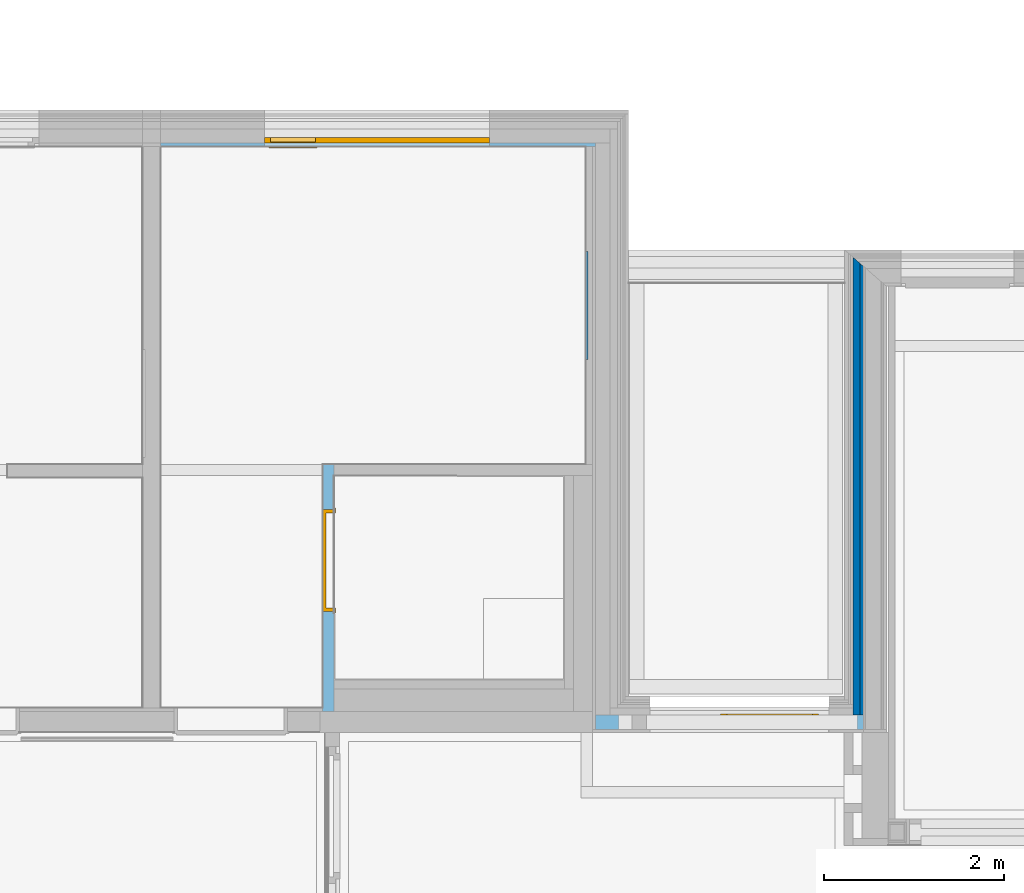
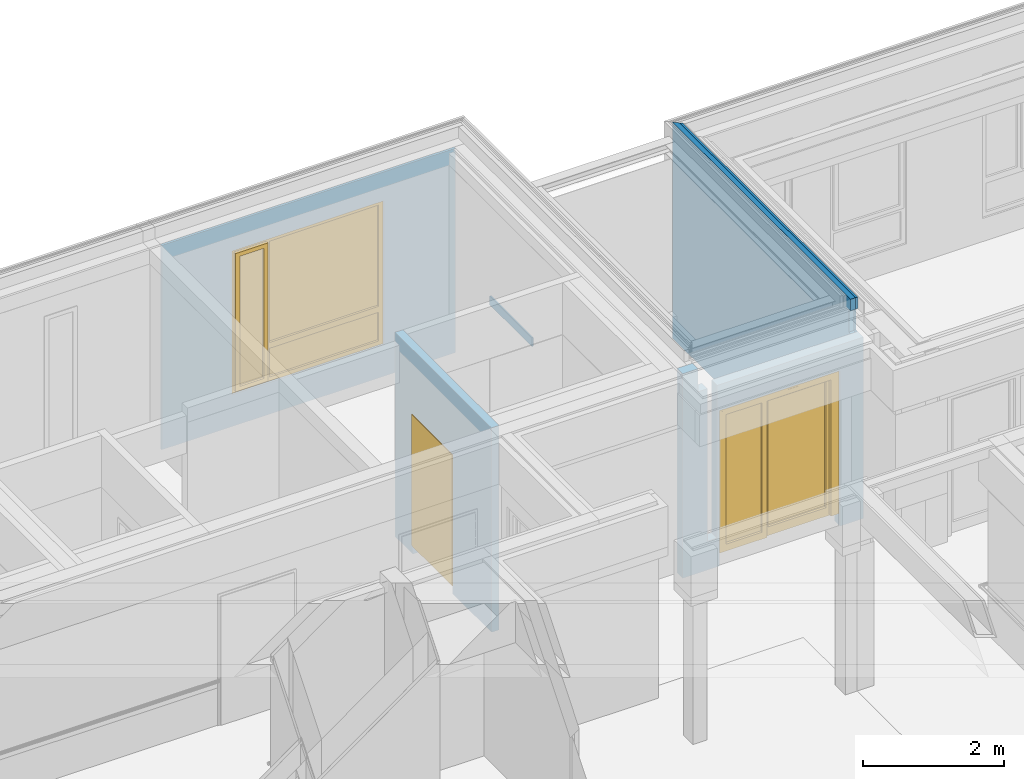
# One storey, part 105 of 222: 3 walls, 2 doors, 1 window, 3 openings, plus 3 elements that do not belong to this part.
"""IFC4 building model written with IfcOpenShell, lengths in metres."""

import ifcopenshell
import ifcopenshell.guid

model = None  # the IFC model being written
_history = None  # IfcOwnerHistory: only IFC2X3 demands one
_inside = {}  # id of a spatial element -> (the spatial element, [elements in it])
_under = {}  # id of a project, library or spatial element -> (it, [spatial elements below it])
_declared = {}  # id of a project -> (the project, [libraries it declares])
_typed = {}  # id of a type object -> (the type object, [elements of that type])
_made_of = {}  # id of a material, layer set ... -> (it, [elements and type objects made of it])


def new_model(schema):
    """Start an empty IFC model of exactly this schema.

    Asked for "IFC4X3", IfcOpenShell would pick the latest addendum, in which some entities
    have other attributes; the version numbers below select the first issue.
    IFC2X3 requires an IfcOwnerHistory on every rooted entity: one is made here for all.
    """
    global model, _history
    if schema == "IFC4X3":
        model = ifcopenshell.file(schema_version=(4, 3, 0, 0))
    else:
        model = ifcopenshell.file(schema=schema)
    _inside.clear()
    _under.clear()
    _declared.clear()
    _typed.clear()
    _made_of.clear()
    _history = None
    if model.schema == "IFC2X3":
        org = make("IfcOrganization", Name="unknown")
        user = make(
            "IfcPersonAndOrganization",
            ThePerson=make("IfcPerson", FamilyName="unknown"),
            TheOrganization=org,
        )
        app = make(
            "IfcApplication",
            ApplicationDeveloper=org,
            Version="unknown",
            ApplicationFullName="unknown",
            ApplicationIdentifier="unknown",
        )
        _history = make(
            "IfcOwnerHistory",
            OwningUser=user,
            OwningApplication=app,
            ChangeAction="ADDED",
            CreationDate=0,
        )
    return model


def make(cls, **values):
    """One entity of the class cls with the attributes given. An attribute that is None is left unset."""
    return model.create_entity(
        cls, **{name: value for name, value in values.items() if value is not None}
    )


def entity(cls, *values):
    """Any entity or typed value of the class cls, its attributes in the order of the schema. None: left unset."""
    e = model.create_entity(cls)
    for i, value in enumerate(values):
        if value is not None:
            e[i] = value
    return e


def rooted(cls, **values):
    """An entity with a GlobalId (a new one), such as an element, a storey or a relation."""
    return make(cls, GlobalId=ifcopenshell.guid.new(), OwnerHistory=_history, **values)


def si_unit(unit_type, name, prefix=None):
    """IfcSIUnit, for example si_unit("LENGTHUNIT", "METRE", prefix="MILLI")."""
    return make("IfcSIUnit", UnitType=unit_type, Prefix=prefix, Name=name)


def converted_unit(unit_type, name, factor, base, dimensions=None, offset=None):
    """IfcConversionBasedUnit, such as the inch: factor (a typed value) times the base unit."""
    return make(
        "IfcConversionBasedUnit"
        if offset is None
        else "IfcConversionBasedUnitWithOffset",
        ConversionOffset=offset,
        Dimensions=None
        if dimensions is None
        else entity("IfcDimensionalExponents", *dimensions),
        UnitType=unit_type,
        Name=name,
        ConversionFactor=make(
            "IfcMeasureWithUnit", ValueComponent=factor, UnitComponent=base
        ),
    )


def derived_unit(unit_type, elements):
    """IfcDerivedUnit: a product of units, each with its exponent."""
    return make(
        "IfcDerivedUnit",
        Elements=[
            make("IfcDerivedUnitElement", Unit=unit, Exponent=power)
            for unit, power in elements
        ],
        UnitType=unit_type,
    )


def assignment(units):
    """IfcUnitAssignment: the units of a project."""
    return None if units is None else make("IfcUnitAssignment", Units=units)


def point(xyz):
    """IfcCartesianPoint."""
    return None if xyz is None else make("IfcCartesianPoint", Coordinates=xyz)


def direction(xyz):
    """IfcDirection."""
    return None if xyz is None else make("IfcDirection", DirectionRatios=xyz)


def frame(location, z_axis=None, x_axis=None):
    """IfcAxis2Placement3D, a coordinate frame: its origin and axes. An axis left out is left unset."""
    return make(
        "IfcAxis2Placement3D",
        Location=point(location),
        Axis=direction(z_axis),
        RefDirection=direction(x_axis),
    )


def frame_2d(location, x_axis=None):
    """IfcAxis2Placement2D, a coordinate frame in the plane: its origin and x axis."""
    return make(
        "IfcAxis2Placement2D", Location=point(location), RefDirection=direction(x_axis)
    )


def origin():
    """The frame at (0, 0, 0) with its axes left unset."""
    return frame((0.0, 0.0, 0.0))


def origin_with_axes():
    """The frame at (0, 0, 0) with the z axis (0, 0, 1) and the x axis (1, 0, 0) written out."""
    return frame((0.0, 0.0, 0.0), z_axis=(0.0, 0.0, 1.0), x_axis=(1.0, 0.0, 0.0))


def place(relative_to, where):
    """IfcLocalPlacement: puts the frame where relative to a parent placement (None: the world)."""
    return make(
        "IfcLocalPlacement", PlacementRelTo=relative_to, RelativePlacement=where
    )


def context(
    kind, dimensions, precision=None, world=None, true_north=None, identifier=None
):
    """IfcGeometricRepresentationContext, for example the 3D "Model" context."""
    return make(
        "IfcGeometricRepresentationContext",
        ContextIdentifier=identifier,
        ContextType=kind,
        CoordinateSpaceDimension=dimensions,
        Precision=precision,
        WorldCoordinateSystem=world,
        TrueNorth=true_north,
    )


def subcontext(parent, identifier, kind, view, scale=None):
    """IfcGeometricRepresentationSubContext, for example "Body" below "Model"."""
    return make(
        "IfcGeometricRepresentationSubContext",
        ContextIdentifier=identifier,
        ContextType=kind,
        ParentContext=parent,
        TargetScale=scale,
        TargetView=view,
    )


def project(units=None, contexts=None):
    """IfcProject with its units and contexts."""
    return rooted(
        "IfcProject",
        Name="project",
        RepresentationContexts=contexts,
        UnitsInContext=assignment(units),
    )


def spatial(cls, under=None, at=None, **own):
    """A site, building, storey or space (cls), placed at a placement, below another one or the project."""
    s = rooted(cls, ObjectPlacement=at, **own)
    if under is not None:
        _under.setdefault(under.id(), (under, []))[1].append(s)
    return s


def polyline(points):
    """IfcPolyline through the points."""
    return make("IfcPolyline", Points=[point(p) for p in points])


def profile(cls, at=None, kind="AREA", **sizes):
    """A parametric profile (cls). Its sizes go by their IFC names, for example OverallWidth=200.0."""
    return make(cls, ProfileType=kind, Position=at, **sizes)


def rectangle(**sizes):
    """IfcRectangleProfileDef."""
    return profile("IfcRectangleProfileDef", **sizes)


def outline(outer, holes=None, kind="AREA"):
    """IfcArbitraryClosedProfileDef: a profile drawn as a closed curve; with holes, ...WithVoids."""
    if holes is None:
        return make("IfcArbitraryClosedProfileDef", ProfileType=kind, OuterCurve=outer)
    return make(
        "IfcArbitraryProfileDefWithVoids",
        ProfileType=kind,
        OuterCurve=outer,
        InnerCurves=holes,
    )


def extrude(swept, where, along, depth):
    """IfcExtrudedAreaSolid: the profile swept, set in the frame where, extruded along a direction by depth."""
    return make(
        "IfcExtrudedAreaSolid",
        SweptArea=swept,
        Position=where,
        ExtrudedDirection=direction(along),
        Depth=depth,
    )


def clip(a, b, op="DIFFERENCE"):
    """IfcBooleanClippingResult: the solid a cut by the half space b."""
    return make(
        "IfcBooleanClippingResult", Operator=op, FirstOperand=a, SecondOperand=b
    )


def bounded_halfspace(plane, agree, where, boundary):
    """IfcPolygonalBoundedHalfSpace: a half space limited to a polygon's prism."""
    return make(
        "IfcPolygonalBoundedHalfSpace",
        BaseSurface=make("IfcPlane", Position=plane),
        AgreementFlag=agree,
        Position=where,
        PolygonalBoundary=boundary,
    )


def faces_of(points, faces, orient=None, outer=None):
    """IfcFace entities. A face is a list of loops; a loop is a list of indices into points, from 0.

    orient and outer hold one flag for each loop. By default every Orientation is true, the
    first loop of a face is its IfcFaceOuterBound and the others are IfcFaceBound.
    """
    made = []
    for i, loops in enumerate(faces):
        bounds = []
        for j, loop in enumerate(loops):
            is_outer = j == 0 if outer is None else outer[i][j]
            bounds.append(
                make(
                    "IfcFaceOuterBound" if is_outer else "IfcFaceBound",
                    Bound=make("IfcPolyLoop", Polygon=[points[k] for k in loop]),
                    Orientation=True if orient is None else orient[i][j],
                )
            )
        made.append(make("IfcFace", Bounds=bounds))
    return made


def closed_shell(faces, orient=None, outer=None):
    """The faces of one IfcClosedShell. faceted_brep and surface_model build it on their shared points."""
    return ("IfcClosedShell", faces, orient, outer)


def open_shell(faces, orient=None, outer=None):
    """The faces of one IfcOpenShell. surface_model builds it on its shared points."""
    return ("IfcOpenShell", faces, orient, outer)


def faceted_brep(points, faces, orient=None, outer=None, voids=None):
    """IfcFacetedBrep: a solid bounded by flat faces; with voids (closed shells), ...WithVoids."""
    shared = [point(p) for p in points]
    hull = make("IfcClosedShell", CfsFaces=faces_of(shared, faces, orient, outer))
    if voids is None:
        return make("IfcFacetedBrep", Outer=hull)
    return make(
        "IfcFacetedBrepWithVoids",
        Outer=hull,
        Voids=[
            make(cls, CfsFaces=faces_of(shared, fs, o, b)) for cls, fs, o, b in voids
        ],
    )


def surface_model(cls, points, shells):
    """IfcFaceBasedSurfaceModel or IfcShellBasedSurfaceModel (cls): surfaces that need not close."""
    shared = [point(p) for p in points]
    made = [make(c, CfsFaces=faces_of(shared, fs, o, b)) for c, fs, o, b in shells]
    if cls == "IfcFaceBasedSurfaceModel":
        return make(cls, FbsmFaces=made)
    return make(cls, SbsmBoundary=made)


def shape(context_of_items, identifier, shape_type, items):
    """IfcShapeRepresentation: the items that make up one representation, for example the "Body"."""
    return make(
        "IfcShapeRepresentation",
        ContextOfItems=context_of_items,
        RepresentationIdentifier=identifier,
        RepresentationType=shape_type,
        Items=items,
    )


def source(mapping_origin, context_of_items, identifier, shape_type, items):
    """IfcRepresentationMap: a shape defined once, which mapped items show again and again."""
    return make(
        "IfcRepresentationMap",
        MappingOrigin=mapping_origin,
        MappedRepresentation=shape(context_of_items, identifier, shape_type, items),
    )


def transform(
    local_origin,
    x_axis=None,
    y_axis=None,
    z_axis=None,
    scale=None,
    scale2=None,
    scale3=None,
    uniform=True,
):
    """IfcCartesianTransformationOperator3D, or its non-uniform kind. x_axis, y_axis, z_axis: its Axis1, 2, 3."""
    if uniform:
        return make(
            "IfcCartesianTransformationOperator3D",
            Axis1=direction(x_axis),
            Axis2=direction(y_axis),
            LocalOrigin=point(local_origin),
            Scale=scale,
            Axis3=direction(z_axis),
        )
    return make(
        "IfcCartesianTransformationOperator3DnonUniform",
        Axis1=direction(x_axis),
        Axis2=direction(y_axis),
        LocalOrigin=point(local_origin),
        Scale=scale,
        Axis3=direction(z_axis),
        Scale2=scale2,
        Scale3=scale3,
    )


def mapped(mapping_source, mapping_target):
    """IfcMappedItem: shows the shape of a source again, moved by a transform."""
    return make(
        "IfcMappedItem", MappingSource=mapping_source, MappingTarget=mapping_target
    )


def material(Name=None, Category=None):
    """IfcMaterial."""
    return make("IfcMaterial", Name=Name, Category=Category)


def made_of(thing, what):
    """Note that an element or type object is made of a material, layer set ...; save() writes the relation."""
    if what is not None:
        _made_of.setdefault(what.id(), (what, []))[1].append(thing)
    return thing


def type_object(cls, material=None, **own):
    """A type object (cls), such as IfcWallType, which elements share."""
    return made_of(rooted(cls, **own), material)


def element(
    cls,
    number,
    at=None,
    inside=None,
    cuts=None,
    type_object=None,
    material=None,
    context=None,
    identifier="Body",
    shape_type=None,
    held_by="IfcProductDefinitionShape",
    body=None,
    shapes=None,
    **own,
):
    """One element of the class cls, such as IfcWall. Its Tag is "e" and its number.

    at: its placement. inside: the storey or other place that contains it. cuts: it is an
    opening in that element (IfcRelVoidsElement). A single representation is given by context,
    identifier, shape_type and body (its items); several are given by shapes. held_by: the class
    of the entity that holds the representations. save() writes the other relations.
    """
    e = rooted(cls, Tag="e%d" % number, ObjectPlacement=at, **own)
    if body is not None:
        shapes = [shape(context, identifier, shape_type, body)]
    if shapes is not None:
        e.Representation = make(held_by, Representations=shapes)
    if inside is not None:
        _inside.setdefault(inside.id(), (inside, []))[1].append(e)
    if cuts is not None:
        rooted(
            "IfcRelVoidsElement", RelatingBuildingElement=cuts, RelatedOpeningElement=e
        )
    if type_object is not None:
        _typed.setdefault(type_object.id(), (type_object, []))[1].append(e)
    return made_of(e, material)


def fill(opening, filler):
    """IfcRelFillsElement: the door or window that sits in an opening."""
    return rooted(
        "IfcRelFillsElement",
        RelatingOpeningElement=opening,
        RelatedBuildingElement=filler,
    )


def aggregate(whole, parts):
    """IfcRelAggregates: a whole, such as a stair, and the parts it consists of."""
    return rooted("IfcRelAggregates", RelatingObject=whole, RelatedObjects=parts)


def save(model, path):
    """Write the relations noted so far, then the file.

    IfcRelAggregates (storeys below a building ...), IfcRelContainedInSpatialStructure (elements
    in a storey), IfcRelDefinesByType, IfcRelAssociatesMaterial and IfcRelDeclares: one each for
    every whole, place, type object, material and project.
    """
    for whole, parts in _under.values():
        aggregate(whole, parts)
    for where, things in _inside.values():
        rooted(
            "IfcRelContainedInSpatialStructure",
            RelatedElements=things,
            RelatingStructure=where,
        )
    for kind, things in _typed.values():
        rooted("IfcRelDefinesByType", RelatedObjects=things, RelatingType=kind)
    for what, things in _made_of.values():
        rooted("IfcRelAssociatesMaterial", RelatedObjects=things, RelatingMaterial=what)
    for by, libraries in _declared.values():
        rooted("IfcRelDeclares", RelatingContext=by, RelatedDefinitions=libraries)
    model.write(path)


model = new_model("IFC4")

# Units and contexts
model_context = context("Model", 3, precision=1e-05, world=origin())
body_context = subcontext(model_context, "Body", "Model", "MODEL_VIEW")
ifc_project = project(units=[si_unit("LENGTHUNIT", "METRE"), si_unit("AREAUNIT", "SQUARE_METRE"), si_unit("VOLUMEUNIT", "CUBIC_METRE"), si_unit("MASSUNIT", "GRAM", prefix="KILO"), converted_unit("PLANEANGLEUNIT", "DEGREE", entity("IfcPlaneAngleMeasure", 0.0174532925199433), si_unit("PLANEANGLEUNIT", "RADIAN"), dimensions=[0, 0, 0, 0, 0, 0, 0]), derived_unit("THERMALTRANSMITTANCEUNIT", [(si_unit("POWERUNIT", "WATT"), 1), (si_unit("THERMODYNAMICTEMPERATUREUNIT", "KELVIN"), -1), (si_unit("LENGTHUNIT", "METRE"), -2)]), derived_unit("VOLUMETRICFLOWRATEUNIT", [(si_unit("LENGTHUNIT", "METRE"), 3), (converted_unit("TIMEUNIT", "hour", entity("IfcTimeMeasure", 3600.0), si_unit("TIMEUNIT", "SECOND"), dimensions=[0, 0, 1, 0, 0, 0, 0]), -1), (si_unit("LENGTHUNIT", "METRE"), -1)])], contexts=[model_context])

# Site, building, storey
site_placement = place(None, origin())
site = spatial("IfcSite", under=ifc_project, at=site_placement, Name="Psychiatrie Neubau Wunstorf", CompositionType="ELEMENT")
building_placement = place(site_placement, origin())
building = spatial("IfcBuilding", under=site, at=building_placement, Name="Neubau H2 Stationsgebäude", CompositionType="ELEMENT")
storey_placement = place(building_placement, frame((0.0, 0.0, 3.6)))
storey = spatial("IfcBuildingStorey", under=building, at=storey_placement, Name="H2 Ebene +1", CompositionType="ELEMENT", Elevation=3.6)

# Wall, opening, door
ifc_material_1 = material(Name="WA-HD")
wall_1_placement = place(storey_placement, frame((34.925, 24.1500036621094, 0.0)))
wall_1 = element("IfcWall", 1, at=wall_1_placement, inside=storey, material=ifc_material_1, Name="Holzständer + Zwischendämmung", context=body_context, shape_type="Clipping", body=[
    clip(clip(clip(extrude(rectangle(XDim=2.9685, YDim=0.16, at=frame_2d((1.48425, 0.08), x_axis=(1.0, 0.0))), origin_with_axes(), (0.0, 0.0, 1.0), 3.55), bounded_halfspace(frame((0.327500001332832, 0.0799997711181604, 3.15), z_axis=(0.0, 0.0, -1.0), x_axis=(-0.999999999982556, -5.90662815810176e-06, 0.0)), True, origin_with_axes(), polyline([(0.405, 0.16), (0.250000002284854, 0.159999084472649), (0.250000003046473, 0.0), (0.405, 0.0), (0.405, 0.16)]))), bounded_halfspace(frame((1.76675, 0.08, 3.15), z_axis=(0.0, 0.0, -1.0), x_axis=(1.0, 0.0, 0.0)), True, origin_with_axes(), polyline([(0.565, 0.0), (2.9685, 0.0), (2.9685, 0.16), (0.565, 0.16), (0.565, 0.0)]))), bounded_halfspace(frame((0.485, 0.08, 0.5), z_axis=(0.0, 0.0, -1.0), x_axis=(0.0, -1.0, 0.0)), True, origin_with_axes(), polyline([(0.405, 0.16), (0.405, 0.0), (0.565, 0.0), (0.565, 0.16), (0.405, 0.16)]))),
])
opening_1_placement = place(wall_1_placement, frame((0.601001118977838, 0.0, 0.0), z_axis=(0.0, 1.0, 0.0), x_axis=(0.0, 0.0, 1.0)))
opening_1 = element("IfcOpeningElement", 2, at=opening_1_placement, cuts=wall_1, Name="Türöffnung", ObjectType="Opening", context=body_context, shape_type="SweptSolid", body=[
    extrude(outline(polyline([(2.7, 1.98299888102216), (2.7, 0.0), (0.0, 0.0), (0.0, 1.98299888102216), (2.7, 1.98299888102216)])), origin_with_axes(), (0.0, 0.0, 1.0), 0.16),
])
ifc_material_2 = material(Name="TA-1F-AG-D-2S-O")
shared_shape_1 = source(origin_with_axes(), body_context, "Body", "SurfaceModel", [
    surface_model("IfcShellBasedSurfaceModel", [(1.98299888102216, 0.0795, 2.7), (1.93299888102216, 0.0795, 2.7), (1.93299888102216, 0.0795, 0.2), (1.98299888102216, 0.0795, 0.2), (1.98299888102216, 0.0005, 0.2), (1.93299888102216, 0.0005, 0.2), (1.93299888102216, 0.0005, 2.7), (1.98299888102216, 0.0005, 2.7)], [closed_shell([[[0, 1, 2, 3]], [[4, 5, 6, 7]], [[3, 4, 7, 0]], [[2, 5, 4, 3]], [[1, 6, 5, 2]], [[0, 7, 6, 1]]], orient=[[False], [False], [False], [False], [False], [False]])]),
    surface_model("IfcShellBasedSurfaceModel", [(0.05, 0.0795, 2.7), (0.0, 0.0795, 2.7), (0.0, 0.0795, 0.2), (0.05, 0.0795, 0.2), (0.05, 0.0005, 0.2), (0.0, 0.0005, 0.2), (0.0, 0.0005, 2.7), (0.05, 0.0005, 2.7)], [closed_shell([[[0, 1, 2, 3]], [[4, 5, 6, 7]], [[3, 4, 7, 0]], [[2, 5, 4, 3]], [[1, 6, 5, 2]], [[0, 7, 6, 1]]], orient=[[False], [False], [False], [False], [False], [False]])]),
    surface_model("IfcShellBasedSurfaceModel", [(1.93299888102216, 0.0795, 2.7), (0.05, 0.0795, 2.7), (0.05, 0.0795, 2.65), (1.93299888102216, 0.0795, 2.65), (1.93299888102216, 0.0005, 2.65), (0.05, 0.0005, 2.65), (0.05, 0.0005, 2.7), (1.93299888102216, 0.0005, 2.7)], [closed_shell([[[0, 1, 2, 3]], [[4, 5, 6, 7]], [[3, 4, 7, 0]], [[2, 5, 4, 3]], [[1, 6, 5, 2]], [[0, 7, 6, 1]]], orient=[[False], [False], [False], [False], [False], [False]])]),
    surface_model("IfcShellBasedSurfaceModel", [(1.93299888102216, 0.08, 2.65), (1.85299888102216, 0.08, 2.65), (1.85299888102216, 0.08, 0.2), (1.93299888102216, 0.08, 0.2), (1.93299888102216, 0.0, 0.2), (1.85299888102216, 0.0, 0.2), (1.85299888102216, 0.0, 2.65), (1.93299888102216, 0.0, 2.65)], [closed_shell([[[0, 1, 2, 3]], [[4, 5, 6, 7]], [[3, 4, 7, 0]], [[2, 5, 4, 3]], [[1, 6, 5, 2]], [[0, 7, 6, 1]]], orient=[[False], [False], [False], [False], [False], [False]])]),
    surface_model("IfcShellBasedSurfaceModel", [(0.13, 0.08, 2.65), (0.05, 0.08, 2.65), (0.05, 0.08, 0.2), (0.13, 0.08, 0.2), (0.13, 0.0, 0.2), (0.05, 0.0, 0.2), (0.05, 0.0, 2.65), (0.13, 0.0, 2.65)], [closed_shell([[[0, 1, 2, 3]], [[4, 5, 6, 7]], [[3, 4, 7, 0]], [[2, 5, 4, 3]], [[1, 6, 5, 2]], [[0, 7, 6, 1]]], orient=[[False], [False], [False], [False], [False], [False]])]),
    surface_model("IfcShellBasedSurfaceModel", [(1.85299888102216, 0.08, 2.65), (0.13, 0.08, 2.65), (0.13, 0.08, 2.57), (1.85299888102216, 0.08, 2.57), (1.85299888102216, 0.0, 2.57), (0.13, 0.0, 2.57), (0.13, 0.0, 2.65), (1.85299888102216, 0.0, 2.65)], [closed_shell([[[0, 1, 2, 3]], [[4, 5, 6, 7]], [[3, 4, 7, 0]], [[2, 5, 4, 3]], [[1, 6, 5, 2]], [[0, 7, 6, 1]]], orient=[[False], [False], [False], [False], [False], [False]])]),
    surface_model("IfcShellBasedSurfaceModel", [(1.87199888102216, 0.14, 2.59), (1.80199888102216, 0.14, 2.59), (1.80199888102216, 0.14, 0.18), (1.87199888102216, 0.14, 0.18), (1.87199888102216, 0.06, 0.18), (1.80199888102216, 0.06, 0.18), (1.80199888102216, 0.06, 2.59), (1.87199888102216, 0.06, 2.59)], [closed_shell([[[0, 1, 2, 3]], [[4, 5, 6, 7]], [[3, 4, 7, 0]], [[2, 5, 4, 3]], [[1, 6, 5, 2]], [[0, 7, 6, 1]]], orient=[[False], [False], [False], [False], [False], [False]])]),
    surface_model("IfcShellBasedSurfaceModel", [(0.851998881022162, 0.14, 2.59), (0.781998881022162, 0.14, 2.59), (0.781998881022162, 0.14, 0.18), (0.851998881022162, 0.14, 0.18), (0.851998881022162, 0.06, 0.18), (0.781998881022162, 0.06, 0.18), (0.781998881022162, 0.06, 2.59), (0.851998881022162, 0.06, 2.59)], [closed_shell([[[0, 1, 2, 3]], [[4, 5, 6, 7]], [[3, 4, 7, 0]], [[2, 5, 4, 3]], [[1, 6, 5, 2]], [[0, 7, 6, 1]]], orient=[[False], [False], [False], [False], [False], [False]])]),
    surface_model("IfcShellBasedSurfaceModel", [(1.80199888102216, 0.14, 0.33), (0.851998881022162, 0.14, 0.33), (0.851998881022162, 0.14, 0.18), (1.80199888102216, 0.14, 0.18), (1.80199888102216, 0.06, 0.18), (0.851998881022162, 0.06, 0.18), (0.851998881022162, 0.06, 0.33), (1.80199888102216, 0.06, 0.33)], [closed_shell([[[0, 1, 2, 3]], [[4, 5, 6, 7]], [[3, 4, 7, 0]], [[2, 5, 4, 3]], [[1, 6, 5, 2]], [[0, 7, 6, 1]]], orient=[[False], [False], [False], [False], [False], [False]])]),
    surface_model("IfcShellBasedSurfaceModel", [(1.80199888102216, 0.14, 2.59), (0.851998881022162, 0.14, 2.59), (0.851998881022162, 0.14, 2.52), (1.80199888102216, 0.14, 2.52), (1.80199888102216, 0.06, 2.52), (0.851998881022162, 0.06, 2.52), (0.851998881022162, 0.06, 2.59), (1.80199888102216, 0.06, 2.59)], [closed_shell([[[0, 1, 2, 3]], [[4, 5, 6, 7]], [[3, 4, 7, 0]], [[2, 5, 4, 3]], [[1, 6, 5, 2]], [[0, 7, 6, 1]]], orient=[[False], [False], [False], [False], [False], [False]])]),
    surface_model("IfcShellBasedSurfaceModel", [(0.800998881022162, 0.08, 2.57), (0.720998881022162, 0.08, 2.57), (0.720998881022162, 0.08, 0.2), (0.800998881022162, 0.08, 0.2), (0.800998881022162, 0.0, 0.2), (0.720998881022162, 0.0, 0.2), (0.720998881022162, 0.0, 2.57), (0.800998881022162, 0.0, 2.57)], [closed_shell([[[0, 1, 2, 3]], [[4, 5, 6, 7]], [[3, 4, 7, 0]], [[2, 5, 4, 3]], [[1, 6, 5, 2]], [[0, 7, 6, 1]]], orient=[[False], [False], [False], [False], [False], [False]])]),
    surface_model("IfcShellBasedSurfaceModel", [(0.720998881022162, 0.08, 0.32), (0.13, 0.08, 0.32), (0.13, 0.08, 0.2), (0.720998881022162, 0.08, 0.2), (0.720998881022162, 0.0, 0.2), (0.13, 0.0, 0.2), (0.13, 0.0, 0.32), (0.720998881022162, 0.0, 0.32)], [closed_shell([[[0, 1, 2, 3]], [[4, 5, 6, 7]], [[3, 4, 7, 0]], [[2, 5, 4, 3]], [[1, 6, 5, 2]], [[0, 7, 6, 1]]], orient=[[False], [False], [False], [False], [False], [False]])]),
    surface_model("IfcShellBasedSurfaceModel", [(0.720998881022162, 0.04, 0.32), (0.720998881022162, 0.04, 2.57), (0.13, 0.04, 2.57), (0.13, 0.04, 0.32)], [open_shell([[[0, 1, 2, 3]]], orient=[[False]])]),
    surface_model("IfcShellBasedSurfaceModel", [(1.80199888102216, 0.1, 0.33), (1.80199888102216, 0.1, 2.52), (0.851998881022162, 0.1, 2.52), (0.851998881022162, 0.1, 0.33)], [open_shell([[[0, 1, 2, 3]]], orient=[[False]])]),
])
door_1_placement = place(opening_1_placement, frame((0.0, 0.0, 0.029), z_axis=(1.0, 0.0, 0.0), x_axis=(0.0, 1.0, 0.0)))
door_1 = element("IfcDoor", 3, at=door_1_placement, inside=storey, material=ifc_material_2, Name="SMT", OperationType="USERDEFINED", OverallHeight=2.7, OverallWidth=1.983, PredefinedType="DOOR", context=body_context, shape_type="MappedRepresentation", body=[
    mapped(shared_shape_1, transform((0.0, 0.0, 0.0), x_axis=(1.0, 0.0, 0.0), y_axis=(0.0, 1.0, 0.0), z_axis=(0.0, 0.0, 1.0), scale=1.0)),
])
fill(opening_1, door_1)

# Walls
ifc_material_3 = material(Name="WA-TP")
wall_2_placement = place(storey_placement, frame((37.8575, 24.3100036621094, 0.0)))
element("IfcWall", 4, at=wall_2_placement, inside=storey, material=ifc_material_3, Name="nichtbrennbare Trägerplatte", context=body_context, shape_type="Brep", body=[
    faceted_brep([(0.036, 0.0499963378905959, 3.55), (0.036, 0.0499963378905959, 3.15), (0.0, 0.0499963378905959, 3.15), (0.0, 0.0499963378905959, 3.55), (0.0, 0.0, 3.55), (0.036, 0.0, 3.55), (0.036, 0.0, 3.15), (0.0, 0.0, 3.15), (0.0, 0.0, 3.75), (0.036, 0.0, 3.75), (0.0, 0.0, 0.0), (0.0, 5.00633369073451, 0.0), (0.0, 5.00633369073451, 3.75), (0.036, 4.97500901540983, 0.0), (0.036, 4.97500901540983, 3.75), (0.036, 0.0, 0.0)], [[[0, 1, 2, 3]], [[0, 3, 4, 5]], [[6, 7, 2, 1]], [[4, 8, 9, 5]], [[3, 2, 7, 10, 11, 12, 8, 4]], [[11, 13, 14, 12]], [[5, 9, 14, 13, 15, 6, 1, 0]], [[6, 15, 10, 7]], [[9, 8, 12, 14]], [[10, 15, 13, 11]]], orient=[[False], [False], [False], [False], [False], [False], [False], [False], [False], [False]]),
])
ifc_material_4 = material(Name="WA-DL")
wall_3_placement = place(storey_placement, frame((37.7775, 24.3100036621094, 0.0)))
element("IfcWall", 5, at=wall_3_placement, inside=storey, material=ifc_material_4, Name="Staffel + Zwischendämmung", context=body_context, shape_type="Brep", body=[
    faceted_brep([(0.08, 0.0499963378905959, 3.55), (0.08, 0.0499963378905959, 3.15), (0.0, 0.0499963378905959, 3.15), (0.0, 0.0499963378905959, 3.55), (0.0, 0.0, 3.55), (0.08, 0.0, 3.55), (0.08, 0.0, 3.15), (0.0, 0.0, 3.15), (0.0, 0.0, 3.75), (0.08, 0.0, 3.75), (0.0, 0.0, 0.0), (0.0, 5.0759440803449, 0.0), (0.0, 5.0759440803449, 3.75), (0.08, 5.00633369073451, 0.0), (0.08, 5.00633369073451, 3.75), (0.08, 0.0, 0.0)], [[[0, 1, 2, 3]], [[0, 3, 4, 5]], [[6, 7, 2, 1]], [[4, 8, 9, 5]], [[3, 2, 7, 10, 11, 12, 8, 4]], [[11, 13, 14, 12]], [[5, 9, 14, 13, 15, 6, 1, 0]], [[6, 15, 10, 7]], [[9, 8, 12, 14]], [[10, 15, 13, 11]]], orient=[[False], [False], [False], [False], [False], [False], [False], [False], [False], [False]]),
])

# Wall, opening, window
ifc_material_5 = material(Name="WA-LB")
wall_4_placement = place(storey_placement, frame((30.1, 30.614, 0.0)))
wall_4 = element("IfcWall", 6, at=wall_4_placement, inside=storey, material=ifc_material_5, context=body_context, shape_type="SweptSolid", body=[
    extrude(rectangle(XDim=4.825, YDim=0.036, at=frame_2d((2.4125, 0.018), x_axis=(1.0, 0.0))), origin_with_axes(), (0.0, 0.0, 1.0), 3.55),
])
opening_2_placement = place(wall_4_placement, frame((1.14999999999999, 0.0, 0.55), z_axis=(0.0, 1.0, 0.0), x_axis=(0.0, 0.0, 1.0)))
opening_2 = element("IfcOpeningElement", 7, at=opening_2_placement, cuts=wall_4, Name="Fensteröffnung", ObjectType="Opening", context=body_context, shape_type="SweptSolid", body=[
    extrude(outline(polyline([(2.5, 2.5), (2.5, 0.0), (0.0, 0.0), (0.0, 2.5), (2.5, 2.5)])), origin_with_axes(), (0.0, 0.0, 1.0), 0.036),
])
shared_shape_2 = source(origin_with_axes(), body_context, "Body", "SurfaceModel", [
    surface_model("IfcShellBasedSurfaceModel", [(0.0, 0.0, 2.5), (0.07, 0.0, 2.5), (0.07, 0.0, 0.0), (0.0, 0.0, 0.0), (0.0, 0.0699999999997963, 0.0), (0.07, 0.0699999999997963, 0.0), (0.07, 0.0699999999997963, 2.5), (0.0, 0.0699999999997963, 2.5)], [closed_shell([[[0, 1, 2, 3]], [[4, 5, 6, 7]], [[3, 4, 7, 0]], [[2, 5, 4, 3]], [[1, 6, 5, 2]], [[0, 7, 6, 1]]], orient=[[False], [False], [False], [False], [False], [False]])]),
    surface_model("IfcShellBasedSurfaceModel", [(2.43, 0.0, 2.5), (2.5, 0.0, 2.5), (2.5, 0.0, 0.0), (2.43, 0.0, 0.0), (2.43, 0.0699999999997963, 0.0), (2.5, 0.0699999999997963, 0.0), (2.5, 0.0699999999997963, 2.5), (2.43, 0.0699999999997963, 2.5)], [closed_shell([[[0, 1, 2, 3]], [[4, 5, 6, 7]], [[3, 4, 7, 0]], [[2, 5, 4, 3]], [[1, 6, 5, 2]], [[0, 7, 6, 1]]], orient=[[False], [False], [False], [False], [False], [False]])]),
    surface_model("IfcShellBasedSurfaceModel", [(0.07, 0.0, 0.07), (2.43, 0.0, 0.07), (2.43, 0.0, 0.0), (0.07, 0.0, 0.0), (0.07, 0.0699999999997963, 0.0), (2.43, 0.0699999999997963, 0.0), (2.43, 0.0699999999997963, 0.07), (0.07, 0.0699999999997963, 0.07)], [closed_shell([[[0, 1, 2, 3]], [[4, 5, 6, 7]], [[3, 4, 7, 0]], [[2, 5, 4, 3]], [[1, 6, 5, 2]], [[0, 7, 6, 1]]], orient=[[False], [False], [False], [False], [False], [False]])]),
    surface_model("IfcShellBasedSurfaceModel", [(0.07, 0.0, 2.5), (2.43, 0.0, 2.5), (2.43, 0.0, 2.43), (0.07, 0.0, 2.43), (0.07, 0.0699999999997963, 2.43), (2.43, 0.0699999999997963, 2.43), (2.43, 0.0699999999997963, 2.5), (0.07, 0.0699999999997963, 2.5)], [closed_shell([[[0, 1, 2, 3]], [[4, 5, 6, 7]], [[3, 4, 7, 0]], [[2, 5, 4, 3]], [[1, 6, 5, 2]], [[0, 7, 6, 1]]], orient=[[False], [False], [False], [False], [False], [False]])]),
    surface_model("IfcShellBasedSurfaceModel", [(0.565714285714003, 0.0, 2.43), (0.635714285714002, 0.0, 2.43), (0.635714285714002, 0.0, 0.07), (0.565714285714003, 0.0, 0.07), (0.565714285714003, 0.0699999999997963, 0.07), (0.635714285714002, 0.0699999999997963, 0.07), (0.635714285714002, 0.0699999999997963, 2.43), (0.565714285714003, 0.0699999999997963, 2.43)], [closed_shell([[[0, 1, 2, 3]], [[4, 5, 6, 7]], [[3, 4, 7, 0]], [[2, 5, 4, 3]], [[1, 6, 5, 2]], [[0, 7, 6, 1]]], orient=[[False], [False], [False], [False], [False], [False]])]),
    surface_model("IfcShellBasedSurfaceModel", [(0.05, -0.05, 2.45), (0.12, -0.05, 2.45), (0.12, -0.05, 0.05), (0.05, -0.05, 0.05), (0.05, 0.0199999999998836, 0.05), (0.12, 0.0199999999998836, 0.05), (0.12, 0.0199999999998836, 2.45), (0.05, 0.0199999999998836, 2.45)], [closed_shell([[[0, 1, 2, 3]], [[4, 5, 6, 7]], [[3, 4, 7, 0]], [[2, 5, 4, 3]], [[1, 6, 5, 2]], [[0, 7, 6, 1]]], orient=[[False], [False], [False], [False], [False], [False]])]),
    surface_model("IfcShellBasedSurfaceModel", [(0.515714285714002, -0.05, 2.45), (0.585714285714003, -0.05, 2.45), (0.585714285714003, -0.05, 0.05), (0.515714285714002, -0.05, 0.05), (0.515714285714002, 0.0199999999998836, 0.05), (0.585714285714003, 0.0199999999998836, 0.05), (0.585714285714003, 0.0199999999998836, 2.45), (0.515714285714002, 0.0199999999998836, 2.45)], [closed_shell([[[0, 1, 2, 3]], [[4, 5, 6, 7]], [[3, 4, 7, 0]], [[2, 5, 4, 3]], [[1, 6, 5, 2]], [[0, 7, 6, 1]]], orient=[[False], [False], [False], [False], [False], [False]])]),
    surface_model("IfcShellBasedSurfaceModel", [(0.12, -0.05, 0.12), (0.515714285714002, -0.05, 0.12), (0.515714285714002, -0.05, 0.05), (0.12, -0.05, 0.05), (0.12, 0.0199999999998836, 0.05), (0.515714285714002, 0.0199999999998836, 0.05), (0.515714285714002, 0.0199999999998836, 0.12), (0.12, 0.0199999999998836, 0.12)], [closed_shell([[[0, 1, 2, 3]], [[4, 5, 6, 7]], [[3, 4, 7, 0]], [[2, 5, 4, 3]], [[1, 6, 5, 2]], [[0, 7, 6, 1]]], orient=[[False], [False], [False], [False], [False], [False]])]),
    surface_model("IfcShellBasedSurfaceModel", [(0.12, -0.05, 2.45), (0.515714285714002, -0.05, 2.45), (0.515714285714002, -0.05, 2.38), (0.12, -0.05, 2.38), (0.12, 0.0199999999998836, 2.38), (0.515714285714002, 0.0199999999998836, 2.38), (0.515714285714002, 0.0199999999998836, 2.45), (0.12, 0.0199999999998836, 2.45)], [closed_shell([[[0, 1, 2, 3]], [[4, 5, 6, 7]], [[3, 4, 7, 0]], [[2, 5, 4, 3]], [[1, 6, 5, 2]], [[0, 7, 6, 1]]], orient=[[False], [False], [False], [False], [False], [False]])]),
    surface_model("IfcShellBasedSurfaceModel", [(0.635714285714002, 0.0, 0.67), (2.43, 0.0, 0.67), (2.43, 0.0, 0.57), (0.635714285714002, 0.0, 0.57), (0.635714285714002, 0.0699999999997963, 0.57), (2.43, 0.0699999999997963, 0.57), (2.43, 0.0699999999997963, 0.67), (0.635714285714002, 0.0699999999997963, 0.67)], [closed_shell([[[0, 1, 2, 3]], [[4, 5, 6, 7]], [[3, 4, 7, 0]], [[2, 5, 4, 3]], [[1, 6, 5, 2]], [[0, 7, 6, 1]]], orient=[[False], [False], [False], [False], [False], [False]])]),
    surface_model("IfcShellBasedSurfaceModel", [(0.12, -0.0150000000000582, 0.12), (0.12, -0.0150000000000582, 2.38), (0.515714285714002, -0.0150000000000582, 2.38), (0.515714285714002, -0.0150000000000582, 0.12)], [open_shell([[[0, 1, 2, 3]]], orient=[[False]])]),
    surface_model("IfcShellBasedSurfaceModel", [(0.635714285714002, 0.0349999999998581, 0.07), (0.635714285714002, 0.0349999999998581, 0.57), (2.43, 0.0349999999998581, 0.57), (2.43, 0.0349999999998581, 0.07)], [open_shell([[[0, 1, 2, 3]]], orient=[[False]])]),
    surface_model("IfcShellBasedSurfaceModel", [(0.635714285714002, 0.0349999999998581, 0.67), (0.635714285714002, 0.0349999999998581, 2.43), (2.43, 0.0349999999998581, 2.43), (2.43, 0.0349999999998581, 0.67)], [open_shell([[[0, 1, 2, 3]]], orient=[[False]])]),
])
window_placement = place(opening_2_placement, frame((0.0, 0.0, 0.03), z_axis=(1.0, 0.0, 0.0), x_axis=(0.0, 1.0, 0.0)))
window = element("IfcWindow", 8, at=window_placement, inside=storey, Name="Fenster", OverallHeight=2.5, OverallWidth=2.5, PartitioningType="USERDEFINED", PredefinedType="WINDOW", context=body_context, shape_type="MappedRepresentation", body=[
    mapped(shared_shape_2, transform((0.0, 0.0, 0.0), x_axis=(1.0, 0.0, 0.0), y_axis=(0.0, 1.0, 0.0), z_axis=(0.0, 0.0, 1.0), scale=1.0)),
])
fill(opening_2, window)

# Wall, opening, door
ifc_material_6 = material(Name="WI-LB")
wall_5_placement = place(storey_placement, frame((31.898, 27.0895, 0.0), z_axis=(0.0, 0.0, 1.0), x_axis=(0.0, -1.0, 0.0)))
wall_5 = element("IfcWall", 9, at=wall_5_placement, inside=storey, material=ifc_material_6, context=body_context, shape_type="SweptSolid", body=[
    extrude(rectangle(XDim=2.74, YDim=0.125, at=frame_2d((1.37, 0.0625), x_axis=(1.0, 0.0))), origin_with_axes(), (0.0, 0.0, 1.0), 3.55),
])
opening_3_placement = place(wall_5_placement, frame((1.635, 0.125, 0.0), z_axis=(0.0, -1.0, 0.0), x_axis=(0.0, 0.0, 1.0)))
opening_3 = element("IfcOpeningElement", 10, at=opening_3_placement, cuts=wall_5, Name="Türöffnung", ObjectType="Opening", context=body_context, shape_type="SweptSolid", body=[
    extrude(outline(polyline([(2.41, 1.135), (2.41, 0.0), (0.0, 0.0), (0.0, 1.135), (2.41, 1.135)])), origin_with_axes(), (0.0, 0.0, 1.0), 0.125),
])
ifc_material_7 = material(Name="TI-1F-UZ-D-N")
door_type = type_object("IfcDoorType", Name="SMT", OperationType="SINGLE_SWING_RIGHT", ParameterTakesPrecedence=False, PredefinedType="DOOR")
shared_shape_3 = source(origin_with_axes(), body_context, "Body", "Brep", [
    faceted_brep([(1.18499999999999, 0.0125000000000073, 0.0), (1.18499999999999, 0.112500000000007, 0.0), (1.13499999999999, 0.112500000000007, 0.0), (1.13499999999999, 0.0125000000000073, 0.0), (1.18499999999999, 0.112500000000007, 3.55), (1.18499999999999, 0.0125000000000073, 3.55), (1.13499999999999, 0.0125000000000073, 3.55), (1.13499999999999, 0.112500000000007, 3.55)], [[[0, 1, 2, 3]], [[4, 5, 6, 7]], [[1, 0, 5, 4]], [[2, 1, 4, 7]], [[3, 2, 7, 6]], [[0, 3, 6, 5]]], orient=[[False], [False], [False], [False], [False], [False]]),
    faceted_brep([(0.0, 0.0125000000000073, 0.0), (0.0, 0.112500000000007, 0.0), (-0.0500000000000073, 0.112500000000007, 0.0), (-0.0500000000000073, 0.0125000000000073, 0.0), (0.0, 0.112500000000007, 3.55), (0.0, 0.0125000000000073, 3.55), (-0.0500000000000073, 0.0125000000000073, 3.55), (-0.0500000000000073, 0.112500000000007, 3.55)], [[[0, 1, 2, 3]], [[4, 5, 6, 7]], [[1, 0, 5, 4]], [[2, 1, 4, 7]], [[3, 2, 7, 6]], [[0, 3, 6, 5]]], orient=[[False], [False], [False], [False], [False], [False]]),
    faceted_brep([(1.13499999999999, 0.0125000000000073, 2.41), (1.13499999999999, 0.112500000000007, 2.41), (0.0, 0.112500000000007, 2.41), (0.0, 0.0125000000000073, 2.41), (1.13499999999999, 0.112500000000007, 2.46), (1.13499999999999, 0.0125000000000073, 2.46), (0.0, 0.0125000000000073, 2.46), (0.0, 0.112500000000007, 2.46)], [[[0, 1, 2, 3]], [[4, 5, 6, 7]], [[1, 0, 5, 4]], [[2, 1, 4, 7]], [[3, 2, 7, 6]], [[0, 3, 6, 5]]], orient=[[False], [False], [False], [False], [False], [False]]),
])
shared_shape_4 = source(origin_with_axes(), body_context, "Body", "Brep", [
    faceted_brep([(0.0, -0.0149999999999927, 2.41), (0.0399999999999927, -0.0149999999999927, 2.41), (0.0399999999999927, -0.0149999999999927, 0.15), (0.0, -0.0149999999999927, 0.15), (0.0, 0.140000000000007, 0.15), (0.0399999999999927, 0.140000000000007, 0.15), (0.0399999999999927, 0.140000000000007, 2.41), (0.0, 0.140000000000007, 2.41)], [[[0, 1, 2, 3]], [[4, 5, 6, 7]], [[3, 4, 7, 0]], [[2, 5, 4, 3]], [[1, 6, 5, 2]], [[0, 7, 6, 1]]], orient=[[False], [False], [False], [False], [False], [False]]),
    faceted_brep([(0.0, -0.0149999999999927, 2.425), (0.0, -0.0149999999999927, 0.15), (-0.0150000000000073, -0.0149999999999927, 0.15), (-0.0150000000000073, -0.0149999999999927, 2.425), (0.0, 0.0, 0.15), (0.0, 0.0, 2.425), (-0.0150000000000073, 0.0, 2.425), (-0.0150000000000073, 0.0, 0.15)], [[[0, 1, 2, 3]], [[4, 5, 6, 7]], [[1, 0, 5, 4]], [[2, 1, 4, 7]], [[3, 2, 7, 6]], [[0, 3, 6, 5]]], orient=[[False], [False], [False], [False], [False], [False]]),
    faceted_brep([(0.0, 0.125000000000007, 2.425), (0.0, 0.125000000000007, 0.15), (-0.0150000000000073, 0.125000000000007, 0.15), (-0.0150000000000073, 0.125000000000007, 2.425), (0.0, 0.140000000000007, 0.15), (0.0, 0.140000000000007, 2.425), (-0.0150000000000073, 0.140000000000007, 2.425), (-0.0150000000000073, 0.140000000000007, 0.15)], [[[0, 1, 2, 3]], [[4, 5, 6, 7]], [[1, 0, 5, 4]], [[2, 1, 4, 7]], [[3, 2, 7, 6]], [[0, 3, 6, 5]]], orient=[[False], [False], [False], [False], [False], [False]]),
    faceted_brep([(1.09499999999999, -0.0149999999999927, 2.41), (1.13499999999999, -0.0149999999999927, 2.41), (1.13499999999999, -0.0149999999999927, 0.15), (1.09499999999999, -0.0149999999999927, 0.15), (1.09499999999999, 0.140000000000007, 0.15), (1.13499999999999, 0.140000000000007, 0.15), (1.13499999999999, 0.140000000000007, 2.41), (1.09499999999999, 0.140000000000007, 2.41)], [[[0, 1, 2, 3]], [[4, 5, 6, 7]], [[3, 4, 7, 0]], [[2, 5, 4, 3]], [[1, 6, 5, 2]], [[0, 7, 6, 1]]], orient=[[False], [False], [False], [False], [False], [False]]),
    faceted_brep([(1.13499999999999, -0.0149999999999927, 2.425), (1.14999999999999, -0.0149999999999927, 2.425), (1.14999999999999, -0.0149999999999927, 0.15), (1.13499999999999, -0.0149999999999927, 0.15), (1.13499999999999, 0.0, 0.15), (1.14999999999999, 0.0, 0.15), (1.14999999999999, 0.0, 2.425), (1.13499999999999, 0.0, 2.425)], [[[0, 1, 2, 3]], [[4, 5, 6, 7]], [[3, 4, 7, 0]], [[2, 5, 4, 3]], [[1, 6, 5, 2]], [[0, 7, 6, 1]]], orient=[[False], [False], [False], [False], [False], [False]]),
    faceted_brep([(1.13499999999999, 0.125000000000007, 2.425), (1.14999999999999, 0.125000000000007, 2.425), (1.14999999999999, 0.125000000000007, 0.15), (1.13499999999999, 0.125000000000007, 0.15), (1.13499999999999, 0.140000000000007, 0.15), (1.14999999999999, 0.140000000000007, 0.15), (1.14999999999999, 0.140000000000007, 2.425), (1.13499999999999, 0.140000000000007, 2.425)], [[[0, 1, 2, 3]], [[4, 5, 6, 7]], [[3, 4, 7, 0]], [[2, 5, 4, 3]], [[1, 6, 5, 2]], [[0, 7, 6, 1]]], orient=[[False], [False], [False], [False], [False], [False]]),
    faceted_brep([(0.0399999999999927, -0.0149999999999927, 2.41), (1.09499999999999, -0.0149999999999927, 2.41), (1.09499999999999, -0.0149999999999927, 2.37), (0.0399999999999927, -0.0149999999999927, 2.37), (0.0399999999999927, 0.140000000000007, 2.37), (1.09499999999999, 0.140000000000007, 2.37), (1.09499999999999, 0.140000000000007, 2.41), (0.0399999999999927, 0.140000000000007, 2.41)], [[[0, 1, 2, 3]], [[4, 5, 6, 7]], [[3, 4, 7, 0]], [[2, 5, 4, 3]], [[1, 6, 5, 2]], [[0, 7, 6, 1]]], orient=[[False], [False], [False], [False], [False], [False]]),
    faceted_brep([(0.0, -0.0149999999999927, 2.425), (1.13499999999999, -0.0149999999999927, 2.425), (1.13499999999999, -0.0149999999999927, 2.41), (0.0, -0.0149999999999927, 2.41), (0.0, 0.0, 2.41), (1.13499999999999, 0.0, 2.41), (1.13499999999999, 0.0, 2.425), (0.0, 0.0, 2.425)], [[[0, 1, 2, 3]], [[4, 5, 6, 7]], [[3, 4, 7, 0]], [[2, 5, 4, 3]], [[1, 6, 5, 2]], [[0, 7, 6, 1]]], orient=[[False], [False], [False], [False], [False], [False]]),
    faceted_brep([(0.0, 0.125000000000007, 2.425), (1.13499999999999, 0.125000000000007, 2.425), (1.13499999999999, 0.125000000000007, 2.41), (0.0, 0.125000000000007, 2.41), (0.0, 0.140000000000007, 2.41), (1.13499999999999, 0.140000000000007, 2.41), (1.13499999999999, 0.140000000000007, 2.425), (0.0, 0.140000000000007, 2.425)], [[[0, 1, 2, 3]], [[4, 5, 6, 7]], [[3, 4, 7, 0]], [[2, 5, 4, 3]], [[1, 6, 5, 2]], [[0, 7, 6, 1]]], orient=[[False], [False], [False], [False], [False], [False]]),
    faceted_brep([(0.0249999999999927, 0.0910000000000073, 2.385), (1.10999999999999, 0.0910000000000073, 2.385), (1.10999999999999, 0.0910000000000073, 0.15), (0.0249999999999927, 0.0910000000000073, 0.15), (0.0249999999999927, 0.141000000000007, 0.15), (1.10999999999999, 0.141000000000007, 0.15), (1.10999999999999, 0.141000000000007, 2.385), (0.0249999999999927, 0.141000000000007, 2.385)], [[[0, 1, 2, 3]], [[4, 5, 6, 7]], [[3, 4, 7, 0]], [[2, 5, 4, 3]], [[1, 6, 5, 2]], [[0, 7, 6, 1]]], orient=[[False], [False], [False], [False], [False], [False]]),
])
door_2_placement = place(opening_3_placement, frame((0.0, 0.0, 0.0), z_axis=(1.0, 0.0, 0.0), x_axis=(0.0, 1.0, 0.0)))
door_2 = element("IfcDoor", 11, at=door_2_placement, inside=storey, type_object=door_type, material=ifc_material_7, Name="SMT", OverallHeight=2.41, OverallWidth=1.135, context=body_context, shape_type="MappedRepresentation", body=[
    mapped(shared_shape_3, transform((0.0, 0.0, 0.0), x_axis=(1.0, 0.0, 0.0), y_axis=(0.0, 1.0, 0.0), z_axis=(0.0, 0.0, 1.0), scale=1.0)),
    mapped(shared_shape_4, transform((0.0, 0.0, 0.0), x_axis=(1.0, 0.0, 0.0), y_axis=(0.0, 1.0, 0.0), z_axis=(0.0, 0.0, 1.0), scale=1.0)),
])
fill(opening_3, door_2)

# Wall
wall_6_placement = place(storey_placement, frame((34.814, 28.25175, 1.575)))
element("IfcWall", 12, at=wall_6_placement, inside=storey, Name="WV 1.1", context=body_context, shape_type="Brep", body=[
    faceted_brep([(0.025, 1.2, 0.0), (0.0, 1.2, 0.0), (0.0, 0.0, 0.0), (0.025, 0.0, 0.0), (0.0, 1.2, 0.15), (0.025, 1.2, 0.15), (0.025, 0.0, 0.15), (0.0, 0.0, 0.15)], [[[0, 1, 2, 3]], [[4, 5, 6, 7]], [[1, 0, 5, 4]], [[2, 1, 4, 7]], [[3, 2, 7, 6]], [[0, 3, 6, 5]]], orient=[[False], [False], [False], [False], [False], [False]]),
])

save(model, "model.ifc")
